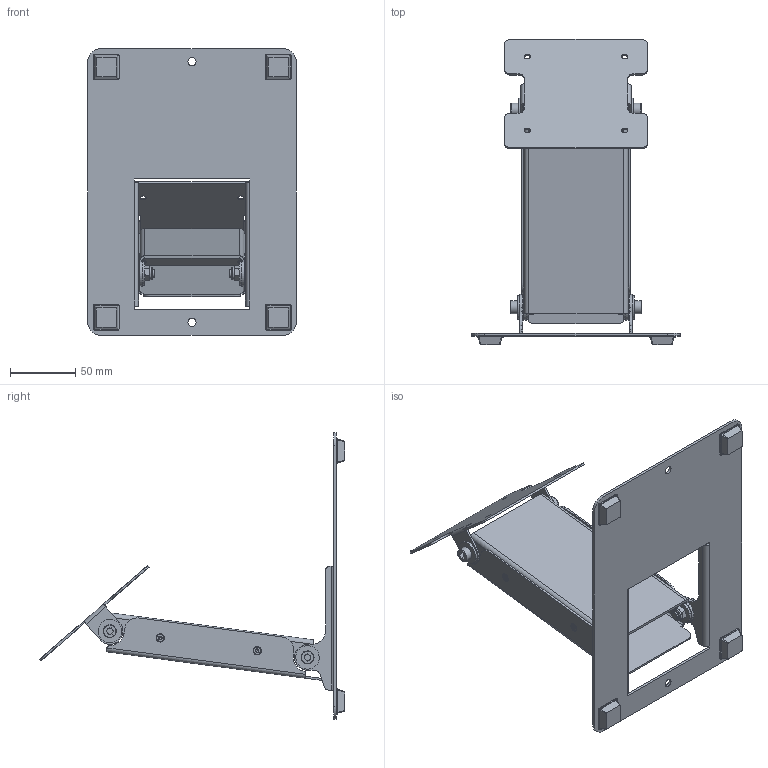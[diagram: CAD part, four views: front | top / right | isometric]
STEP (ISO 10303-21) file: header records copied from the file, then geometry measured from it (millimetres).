
FILE_DESCRIPTION (( 'STEP AP214' ), '1' );
FILE_NAME ('Supporto tavolo KDU snodato 010402.STEP', '2025-07-17T14:41:36', ( '' ), ( '' ), 'SwSTEP 2.0', 'SolidWorks 2024', '' );
FILE_SCHEMA (( 'AUTOMOTIVE_DESIGN' ));
Length unit declared in the file: millimetre
Products named in the file (1): Supporto tavolo KDU snodato 010402
Bounding box: 160 x 234.05 x 220 mm (x, y, z)
Surface area: 178481.7 mm2 (no closed solid volume)
Topology: 0 solids, 64 shells, 402 faces, 1120 edges, 776 vertices
Faces by surface type: plane 222, cylinder 144, cone 20, torus 12, bspline 4
Full cylindrical faces by diameter (mm): 4.7 x4, 5.5 x4, 5.85 x4, 6.2 x6, 9.8 x4, 10 x4, 18 x8
Entity records: 16965 total; most frequent: CARTESIAN_POINT 2605, DIRECTION 2186, ORIENTED_EDGE 1740, EDGE_CURVE 1050, AXIS2_PLACEMENT_3D 817, VERTEX_POINT 764, VECTOR 552, LINE 552
